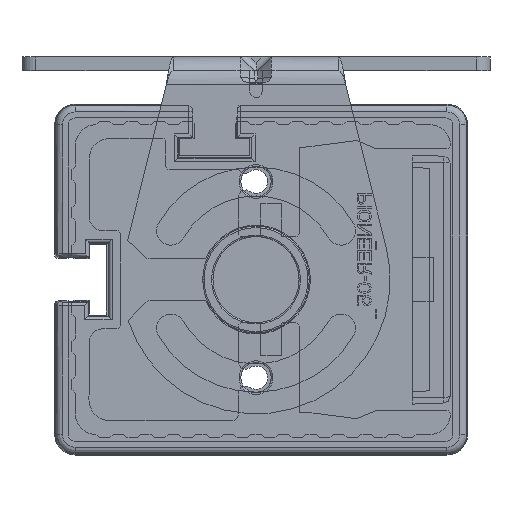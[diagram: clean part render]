
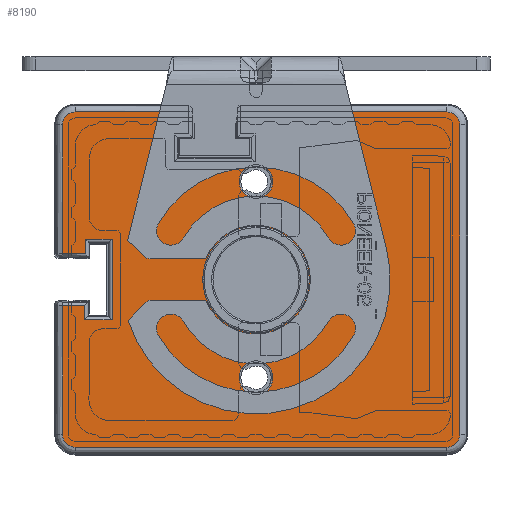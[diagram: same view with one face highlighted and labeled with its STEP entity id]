
A CAD part, front view. The second image highlights one B-rep face of the part: STEP entity #8190.
In plain terms, the highlighted planar face has unit normal (0, -1, 0).
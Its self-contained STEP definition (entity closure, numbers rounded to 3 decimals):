
#1539=FACE_BOUND('',#32956,.T.);
#1540=FACE_BOUND('',#32957,.T.);
#1541=FACE_BOUND('',#32958,.T.);
#1542=FACE_BOUND('',#32959,.T.);
#8190=ADVANCED_FACE('',(#1539,#1540,#1541,#1542),#16264,.T.);
#16264=PLANE('',#174146);
#32956=EDGE_LOOP('',(#68021,#68022,#68023,#68024,#68025,#68026,#68027,#68028,
#68029,#68030,#68031,#68032,#68033,#68034,#68035,#68036,#68037,#68038,#68039,
#68040,#68041,#68042,#68043,#68044));
#32957=EDGE_LOOP('',(#68045,#68046));
#32958=EDGE_LOOP('',(#68047,#68048));
#32959=EDGE_LOOP('',(#68049,#68050));
#36791=CIRCLE('',#174136,1.86);
#36792=CIRCLE('',#174137,1.86);
#36793=CIRCLE('',#174138,1.86);
#36794=CIRCLE('',#174139,1.86);
#36795=CIRCLE('',#174140,2.45);
#36796=CIRCLE('',#174141,2.45);
#36797=CIRCLE('',#174142,2.45);
#36798=CIRCLE('',#174143,2.45);
#36799=CIRCLE('',#174144,7.75);
#36800=CIRCLE('',#174145,7.75);
#68021=ORIENTED_EDGE('',*,*,#115924,.F.);
#68022=ORIENTED_EDGE('',*,*,#115925,.F.);
#68023=ORIENTED_EDGE('',*,*,#115926,.F.);
#68024=ORIENTED_EDGE('',*,*,#115927,.F.);
#68025=ORIENTED_EDGE('',*,*,#115928,.F.);
#68026=ORIENTED_EDGE('',*,*,#115929,.T.);
#68027=ORIENTED_EDGE('',*,*,#115930,.F.);
#68028=ORIENTED_EDGE('',*,*,#115931,.F.);
#68029=ORIENTED_EDGE('',*,*,#115932,.F.);
#68030=ORIENTED_EDGE('',*,*,#115933,.F.);
#68031=ORIENTED_EDGE('',*,*,#115934,.T.);
#68032=ORIENTED_EDGE('',*,*,#115935,.F.);
#68033=ORIENTED_EDGE('',*,*,#115936,.F.);
#68034=ORIENTED_EDGE('',*,*,#115937,.F.);
#68035=ORIENTED_EDGE('',*,*,#115938,.F.);
#68036=ORIENTED_EDGE('',*,*,#115939,.T.);
#68037=ORIENTED_EDGE('',*,*,#115940,.F.);
#68038=ORIENTED_EDGE('',*,*,#115941,.F.);
#68039=ORIENTED_EDGE('',*,*,#115942,.F.);
#68040=ORIENTED_EDGE('',*,*,#115943,.F.);
#68041=ORIENTED_EDGE('',*,*,#115944,.F.);
#68042=ORIENTED_EDGE('',*,*,#115945,.F.);
#68043=ORIENTED_EDGE('',*,*,#115946,.F.);
#68044=ORIENTED_EDGE('',*,*,#115947,.F.);
#68045=ORIENTED_EDGE('',*,*,#115948,.F.);
#68046=ORIENTED_EDGE('',*,*,#115949,.F.);
#68047=ORIENTED_EDGE('',*,*,#115950,.F.);
#68048=ORIENTED_EDGE('',*,*,#115951,.F.);
#68049=ORIENTED_EDGE('',*,*,#115952,.F.);
#68050=ORIENTED_EDGE('',*,*,#115953,.F.);
#95079=VERTEX_POINT('',#252311);
#95080=VERTEX_POINT('',#252312);
#95081=VERTEX_POINT('',#252314);
#95082=VERTEX_POINT('',#252316);
#95083=VERTEX_POINT('',#252318);
#95084=VERTEX_POINT('',#252320);
#95085=VERTEX_POINT('',#252322);
#95086=VERTEX_POINT('',#252324);
#95087=VERTEX_POINT('',#252326);
#95088=VERTEX_POINT('',#252328);
#95089=VERTEX_POINT('',#252330);
#95090=VERTEX_POINT('',#252332);
#95091=VERTEX_POINT('',#252334);
#95092=VERTEX_POINT('',#252336);
#95093=VERTEX_POINT('',#252338);
#95094=VERTEX_POINT('',#252340);
#95095=VERTEX_POINT('',#252342);
#95096=VERTEX_POINT('',#252344);
#95097=VERTEX_POINT('',#252346);
#95098=VERTEX_POINT('',#252348);
#95099=VERTEX_POINT('',#252350);
#95100=VERTEX_POINT('',#252352);
#95101=VERTEX_POINT('',#252354);
#95102=VERTEX_POINT('',#252356);
#95103=VERTEX_POINT('',#252359);
#95104=VERTEX_POINT('',#252360);
#95105=VERTEX_POINT('',#252363);
#95106=VERTEX_POINT('',#252364);
#95107=VERTEX_POINT('',#252367);
#95108=VERTEX_POINT('',#252368);
#115924=EDGE_CURVE('',#95079,#95080,#138868,.T.);
#115925=EDGE_CURVE('',#95081,#95079,#138869,.T.);
#115926=EDGE_CURVE('',#95082,#95081,#138870,.T.);
#115927=EDGE_CURVE('',#95083,#95082,#138871,.T.);
#115928=EDGE_CURVE('',#95084,#95083,#138872,.T.);
#115929=EDGE_CURVE('',#95084,#95085,#138873,.T.);
#115930=EDGE_CURVE('',#95086,#95085,#138874,.T.);
#115931=EDGE_CURVE('',#95087,#95086,#36791,.T.);
#115932=EDGE_CURVE('',#95088,#95087,#138875,.T.);
#115933=EDGE_CURVE('',#95089,#95088,#138876,.T.);
#115934=EDGE_CURVE('',#95089,#95090,#138877,.T.);
#115935=EDGE_CURVE('',#95091,#95090,#138878,.T.);
#115936=EDGE_CURVE('',#95092,#95091,#138879,.T.);
#115937=EDGE_CURVE('',#95093,#95092,#138880,.T.);
#115938=EDGE_CURVE('',#95094,#95093,#138881,.T.);
#115939=EDGE_CURVE('',#95094,#95095,#138882,.T.);
#115940=EDGE_CURVE('',#95096,#95095,#138883,.T.);
#115941=EDGE_CURVE('',#95097,#95096,#36792,.T.);
#115942=EDGE_CURVE('',#95098,#95097,#138884,.T.);
#115943=EDGE_CURVE('',#95099,#95098,#36793,.T.);
#115944=EDGE_CURVE('',#95100,#95099,#138885,.T.);
#115945=EDGE_CURVE('',#95101,#95100,#36794,.T.);
#115946=EDGE_CURVE('',#95102,#95101,#138886,.T.);
#115947=EDGE_CURVE('',#95080,#95102,#138887,.T.);
#115948=EDGE_CURVE('',#95103,#95104,#36795,.T.);
#115949=EDGE_CURVE('',#95104,#95103,#36796,.T.);
#115950=EDGE_CURVE('',#95105,#95106,#36797,.T.);
#115951=EDGE_CURVE('',#95106,#95105,#36798,.T.);
#115952=EDGE_CURVE('',#95107,#95108,#36799,.T.);
#115953=EDGE_CURVE('',#95108,#95107,#36800,.T.);
#138868=LINE('',#252310,#160632);
#138869=LINE('',#252313,#160633);
#138870=LINE('',#252315,#160634);
#138871=LINE('',#252317,#160635);
#138872=LINE('',#252319,#160636);
#138873=LINE('',#252321,#160637);
#138874=LINE('',#252323,#160638);
#138875=LINE('',#252327,#160639);
#138876=LINE('',#252329,#160640);
#138877=LINE('',#252331,#160641);
#138878=LINE('',#252333,#160642);
#138879=LINE('',#252335,#160643);
#138880=LINE('',#252337,#160644);
#138881=LINE('',#252339,#160645);
#138882=LINE('',#252341,#160646);
#138883=LINE('',#252343,#160647);
#138884=LINE('',#252347,#160648);
#138885=LINE('',#252351,#160649);
#138886=LINE('',#252355,#160650);
#138887=LINE('',#252357,#160651);
#160632=VECTOR('',#204709,1.);
#160633=VECTOR('',#204710,1.);
#160634=VECTOR('',#204711,1.);
#160635=VECTOR('',#204712,1.);
#160636=VECTOR('',#204713,1.);
#160637=VECTOR('',#204714,1.);
#160638=VECTOR('',#204715,1.);
#160639=VECTOR('',#204718,1.);
#160640=VECTOR('',#204719,1.);
#160641=VECTOR('',#204720,1.);
#160642=VECTOR('',#204721,1.);
#160643=VECTOR('',#204722,1.);
#160644=VECTOR('',#204723,1.);
#160645=VECTOR('',#204724,1.);
#160646=VECTOR('',#204725,1.);
#160647=VECTOR('',#204726,1.);
#160648=VECTOR('',#204729,1.);
#160649=VECTOR('',#204732,1.);
#160650=VECTOR('',#204735,1.);
#160651=VECTOR('',#204736,1.);
#174136=AXIS2_PLACEMENT_3D('',#252325,#204716,#204717);
#174137=AXIS2_PLACEMENT_3D('',#252345,#204727,#204728);
#174138=AXIS2_PLACEMENT_3D('',#252349,#204730,#204731);
#174139=AXIS2_PLACEMENT_3D('',#252353,#204733,#204734);
#174140=AXIS2_PLACEMENT_3D('',#252358,#204737,#204738);
#174141=AXIS2_PLACEMENT_3D('',#252361,#204739,#204740);
#174142=AXIS2_PLACEMENT_3D('',#252362,#204741,#204742);
#174143=AXIS2_PLACEMENT_3D('',#252365,#204743,#204744);
#174144=AXIS2_PLACEMENT_3D('',#252366,#204745,#204746);
#174145=AXIS2_PLACEMENT_3D('',#252369,#204747,#204748);
#174146=AXIS2_PLACEMENT_3D('',#252370,#204749,#204750);
#204709=DIRECTION('',(-1.,0.,0.));
#204710=DIRECTION('',(0.,0.,1.));
#204711=DIRECTION('',(1.,0.,0.));
#204712=DIRECTION('',(0.,0.,-1.));
#204713=DIRECTION('',(-1.,0.,0.));
#204714=DIRECTION('',(0.,0.,1.));
#204715=DIRECTION('',(1.,0.,0.));
#204716=DIRECTION('',(0.,1.,0.));
#204717=DIRECTION('',(-1.,0.,0.));
#204718=DIRECTION('',(0.,0.,1.));
#204719=DIRECTION('',(-1.,0.,0.));
#204720=DIRECTION('',(0.,0.,1.));
#204721=DIRECTION('',(-1.,0.,0.));
#204722=DIRECTION('',(0.,0.,1.));
#204723=DIRECTION('',(1.,0.,0.));
#204724=DIRECTION('',(0.,0.,-1.));
#204725=DIRECTION('',(-1.,0.,0.));
#204726=DIRECTION('',(0.,0.,1.));
#204727=DIRECTION('',(0.,1.,0.));
#204728=DIRECTION('',(0.,0.,-1.));
#204729=DIRECTION('',(-1.,0.,0.));
#204730=DIRECTION('',(0.,1.,0.));
#204731=DIRECTION('',(1.,0.,0.));
#204732=DIRECTION('',(0.,0.,-1.));
#204733=DIRECTION('',(0.,1.,0.));
#204734=DIRECTION('',(0.,0.,1.));
#204735=DIRECTION('',(1.,0.,0.));
#204736=DIRECTION('',(0.,0.,1.));
#204737=DIRECTION('',(0.,-1.,0.));
#204738=DIRECTION('',(-1.,0.,0.));
#204739=DIRECTION('',(0.,-1.,0.));
#204740=DIRECTION('',(1.,0.,0.));
#204741=DIRECTION('',(0.,-1.,0.));
#204742=DIRECTION('',(-1.,0.,0.));
#204743=DIRECTION('',(0.,-1.,0.));
#204744=DIRECTION('',(1.,0.,0.));
#204745=DIRECTION('',(0.,-1.,0.));
#204746=DIRECTION('',(1.,0.,0.));
#204747=DIRECTION('',(0.,-1.,0.));
#204748=DIRECTION('',(-1.,0.,0.));
#204749=DIRECTION('',(0.,-1.,0.));
#204750=DIRECTION('',(0.,0.,1.));
#252310=CARTESIAN_POINT('',(-1.143,-283.,21.157));
#252311=CARTESIAN_POINT('',(-1.143,-283.,21.157));
#252312=CARTESIAN_POINT('',(-3.243,-283.,21.157));
#252313=CARTESIAN_POINT('',(-1.143,-283.,17.143));
#252314=CARTESIAN_POINT('',(-1.143,-283.,17.143));
#252315=CARTESIAN_POINT('',(-12.857,-283.,17.143));
#252316=CARTESIAN_POINT('',(-12.857,-283.,17.143));
#252317=CARTESIAN_POINT('',(-12.857,-283.,21.157));
#252318=CARTESIAN_POINT('',(-12.857,-283.,21.157));
#252319=CARTESIAN_POINT('',(-10.757,-283.,21.157));
#252320=CARTESIAN_POINT('',(-10.757,-283.,21.157));
#252321=CARTESIAN_POINT('',(-10.757,-283.,0.));
#252322=CARTESIAN_POINT('',(-10.757,-283.,24.36));
#252323=CARTESIAN_POINT('',(-27.439,-283.,24.36));
#252324=CARTESIAN_POINT('',(-27.25,-283.,24.36));
#252325=CARTESIAN_POINT('',(-27.25,-283.,22.5));
#252326=CARTESIAN_POINT('',(-29.11,-283.,22.5));
#252327=CARTESIAN_POINT('',(-29.11,-283.,-91.984));
#252328=CARTESIAN_POINT('',(-29.11,-283.,3.757));
#252329=CARTESIAN_POINT('',(106.822,-283.,3.757));
#252330=CARTESIAN_POINT('',(-25.75,-283.,3.757));
#252331=CARTESIAN_POINT('',(-25.75,-283.,3.757));
#252332=CARTESIAN_POINT('',(-25.75,-283.,5.857));
#252333=CARTESIAN_POINT('',(-21.893,-283.,5.857));
#252334=CARTESIAN_POINT('',(-21.893,-283.,5.857));
#252335=CARTESIAN_POINT('',(-21.893,-283.,-5.857));
#252336=CARTESIAN_POINT('',(-21.893,-283.,-5.857));
#252337=CARTESIAN_POINT('',(-25.907,-283.,-5.857));
#252338=CARTESIAN_POINT('',(-25.907,-283.,-5.857));
#252339=CARTESIAN_POINT('',(-25.907,-283.,-3.757));
#252340=CARTESIAN_POINT('',(-25.907,-283.,-3.757));
#252341=CARTESIAN_POINT('',(-0.25,-283.,-3.757));
#252342=CARTESIAN_POINT('',(-29.11,-283.,-3.757));
#252343=CARTESIAN_POINT('',(-29.11,-283.,-22.689));
#252344=CARTESIAN_POINT('',(-29.11,-283.,-22.5));
#252345=CARTESIAN_POINT('',(-27.25,-283.,-22.5));
#252346=CARTESIAN_POINT('',(-27.25,-283.,-24.36));
#252347=CARTESIAN_POINT('',(26.75,-283.,-24.36));
#252348=CARTESIAN_POINT('',(26.75,-283.,-24.36));
#252349=CARTESIAN_POINT('',(26.75,-283.,-22.5));
#252350=CARTESIAN_POINT('',(28.61,-283.,-22.5));
#252351=CARTESIAN_POINT('',(28.61,-283.,22.5));
#252352=CARTESIAN_POINT('',(28.61,-283.,22.5));
#252353=CARTESIAN_POINT('',(26.75,-283.,22.5));
#252354=CARTESIAN_POINT('',(26.75,-283.,24.36));
#252355=CARTESIAN_POINT('',(-108.466,-283.,24.36));
#252356=CARTESIAN_POINT('',(-3.243,-283.,24.36));
#252357=CARTESIAN_POINT('',(-3.243,-283.,-91.984));
#252358=CARTESIAN_POINT('',(-1.,-283.,14.25));
#252359=CARTESIAN_POINT('',(-3.45,-283.,14.25));
#252360=CARTESIAN_POINT('',(1.45,-283.,14.25));
#252361=CARTESIAN_POINT('',(-1.,-283.,14.25));
#252362=CARTESIAN_POINT('',(-1.,-283.,-14.25));
#252363=CARTESIAN_POINT('',(-3.45,-283.,-14.25));
#252364=CARTESIAN_POINT('',(1.45,-283.,-14.25));
#252365=CARTESIAN_POINT('',(-1.,-283.,-14.25));
#252366=CARTESIAN_POINT('',(-1.,-283.,0.));
#252367=CARTESIAN_POINT('',(6.75,-283.,0.));
#252368=CARTESIAN_POINT('',(-8.75,-283.,0.));
#252369=CARTESIAN_POINT('',(-1.,-283.,0.));
#252370=CARTESIAN_POINT('',(-0.25,-283.,0.));
